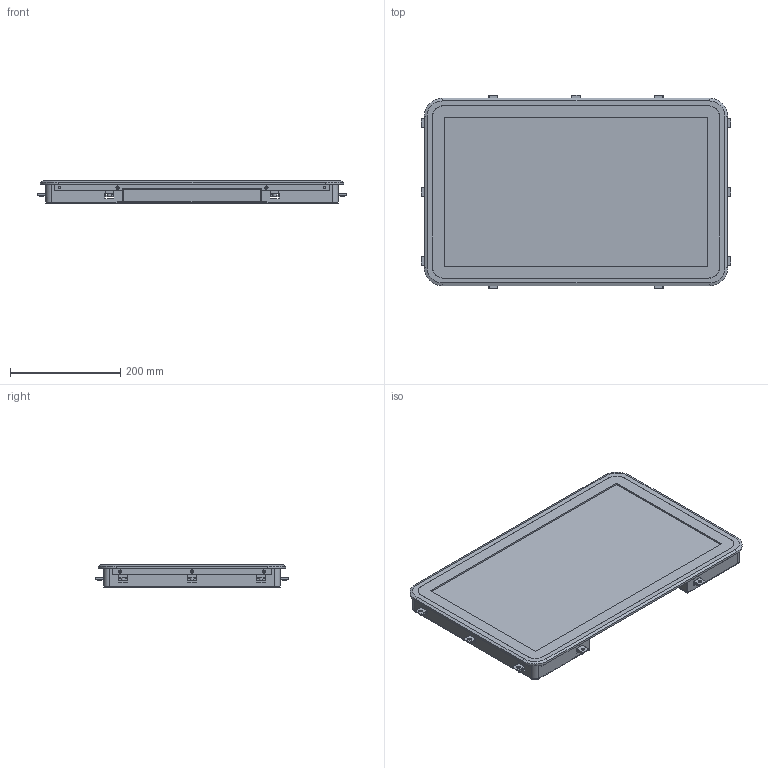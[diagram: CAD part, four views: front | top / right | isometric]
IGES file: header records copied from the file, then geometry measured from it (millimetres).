
Global section: file name: FIE215UM; native system: AutoCAD 2019 – 繁體中文 (Traditional Chinese),62HAutode; preprocessor: sk Translation Framework DWG producer (atf_dwg_producer); organization: unknown; date: 20210621.175348; units: millimetre
Bounding box: 561 x 351 x 40 mm (x, y, z)
Volume: 1825689.4 mm3; surface area: 1343097.9 mm2
Topology: 21 solids, 21 shells, 1444 faces, 3785 edges, 2550 vertices
Faces by surface type: bspline 1444
